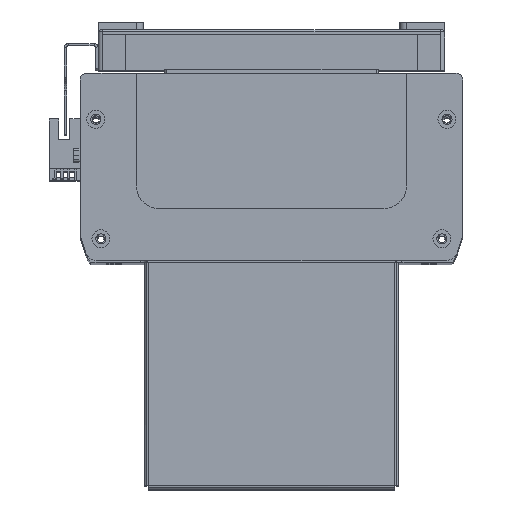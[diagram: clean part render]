
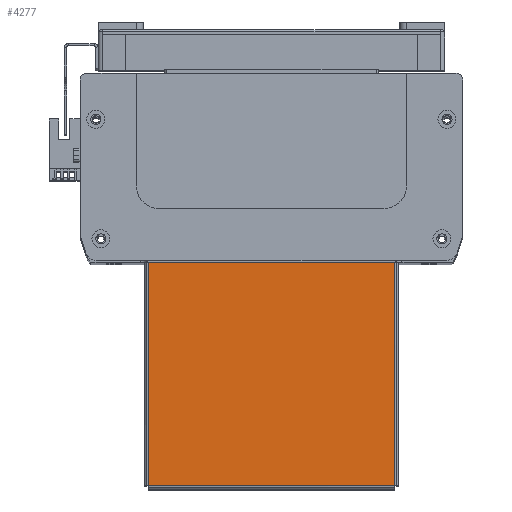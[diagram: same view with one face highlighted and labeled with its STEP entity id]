
A CAD part, top view. The second image highlights one B-rep face of the part: STEP entity #4277.
In plain terms, the highlighted planar face has unit normal (0, 0, 1).
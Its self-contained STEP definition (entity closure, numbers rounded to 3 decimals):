
#4277 = ADVANCED_FACE ( 'NONE', ( #32588 ), #31711, .T. ) ;
#11232 = EDGE_CURVE ( 'NONE', #16511, #16455, #39508, .T. ) ;
#11292 = EDGE_CURVE ( 'NONE', #16455, #16435, #39638, .T. ) ;
#11303 = EDGE_CURVE ( 'NONE', #16405, #16511, #39642, .T. ) ;
#11327 = EDGE_CURVE ( 'NONE', #16435, #16405, #39727, .T. ) ;
#12557 = EDGE_LOOP ( 'NONE', ( #31993, #31551, #31586, #31543 ) ) ;
#16405 = VERTEX_POINT ( 'NONE', #45985 ) ;
#16435 = VERTEX_POINT ( 'NONE', #45994 ) ;
#16455 = VERTEX_POINT ( 'NONE', #46018 ) ;
#16511 = VERTEX_POINT ( 'NONE', #46032 ) ;
#21393 = AXIS2_PLACEMENT_3D ( 'NONE', #31737, #31734, #31723 ) ;
#31543 = ORIENTED_EDGE ( 'NONE', *, *, #11327, .T. ) ;
#31551 = ORIENTED_EDGE ( 'NONE', *, *, #11232, .T. ) ;
#31586 = ORIENTED_EDGE ( 'NONE', *, *, #11292, .T. ) ;
#31711 = PLANE ( 'NONE',  #21393 ) ;
#31723 = DIRECTION ( 'NONE',  ( 1., 0., 0. ) ) ;
#31734 = DIRECTION ( 'NONE',  ( 0., 0., 1. ) ) ;
#31737 = CARTESIAN_POINT ( 'NONE',  ( 0., 0., 0. ) ) ;
#31993 = ORIENTED_EDGE ( 'NONE', *, *, #11303, .T. ) ;
#32588 = FACE_OUTER_BOUND ( 'NONE', #12557, .T. ) ;
#39508 = LINE ( 'NONE', #40314, #39527 ) ;
#39527 = VECTOR ( 'NONE', #40319, 1000. ) ;
#39638 = LINE ( 'NONE', #40485, #39680 ) ;
#39642 = LINE ( 'NONE', #40552, #39689 ) ;
#39680 = VECTOR ( 'NONE', #40491, 1000. ) ;
#39689 = VECTOR ( 'NONE', #40521, 1000. ) ;
#39714 = VECTOR ( 'NONE', #40650, 1000. ) ;
#39727 = LINE ( 'NONE', #40581, #39714 ) ;
#40314 = CARTESIAN_POINT ( 'NONE',  ( -54.793, -49.263, 0. ) ) ;
#40319 = DIRECTION ( 'NONE',  ( 1., 0., 0. ) ) ;
#40485 = CARTESIAN_POINT ( 'NONE',  ( 54.763, -49.293, 0. ) ) ;
#40491 = DIRECTION ( 'NONE',  ( 0., 1., 0. ) ) ;
#40521 = DIRECTION ( 'NONE',  ( 0., -1., 0. ) ) ;
#40552 = CARTESIAN_POINT ( 'NONE',  ( -54.763, 50., 0. ) ) ;
#40581 = CARTESIAN_POINT ( 'NONE',  ( -55.5, 50., 0. ) ) ;
#40650 = DIRECTION ( 'NONE',  ( -1., 0., 0. ) ) ;
#45985 = CARTESIAN_POINT ( 'NONE',  ( -54.763, 50., 0. ) ) ;
#45994 = CARTESIAN_POINT ( 'NONE',  ( 54.763, 50., 0. ) ) ;
#46018 = CARTESIAN_POINT ( 'NONE',  ( 54.763, -49.263, 0. ) ) ;
#46032 = CARTESIAN_POINT ( 'NONE',  ( -54.763, -49.263, 0. ) ) ;
